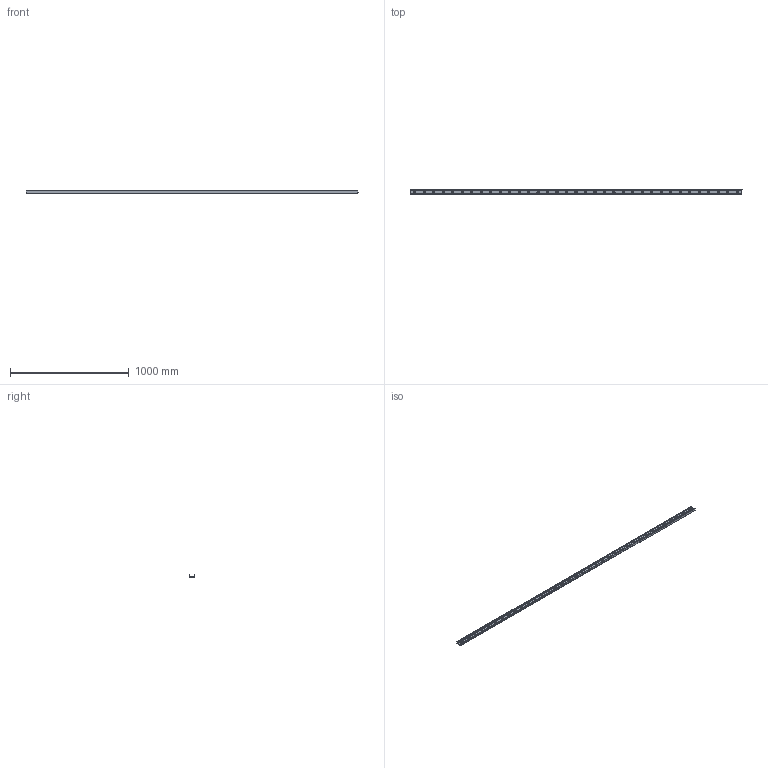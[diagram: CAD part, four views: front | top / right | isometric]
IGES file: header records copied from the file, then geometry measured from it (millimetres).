
Start section: SolidWorks IGES file using analytic representation for surfaces
Global section: file name: C:\Users\IanO\Desktop\43\L1943.ULC43_v2_20180121_IGES\L1943.ULC43-2800.igs; native system: SolidWorks 2017; preprocessor: SolidWorks 2017; author: IanO; date: 190121.085113; units: millimetre
Bounding box: 2800 x 43 x 21 mm (x, y, z)
Surface area: 439137.2 mm2 (no closed solid volume)
Topology: 0 solids, 0 shells, 201 faces, 5334 edges, 5334 vertices
Faces by surface type: revolution 153, bspline 48
